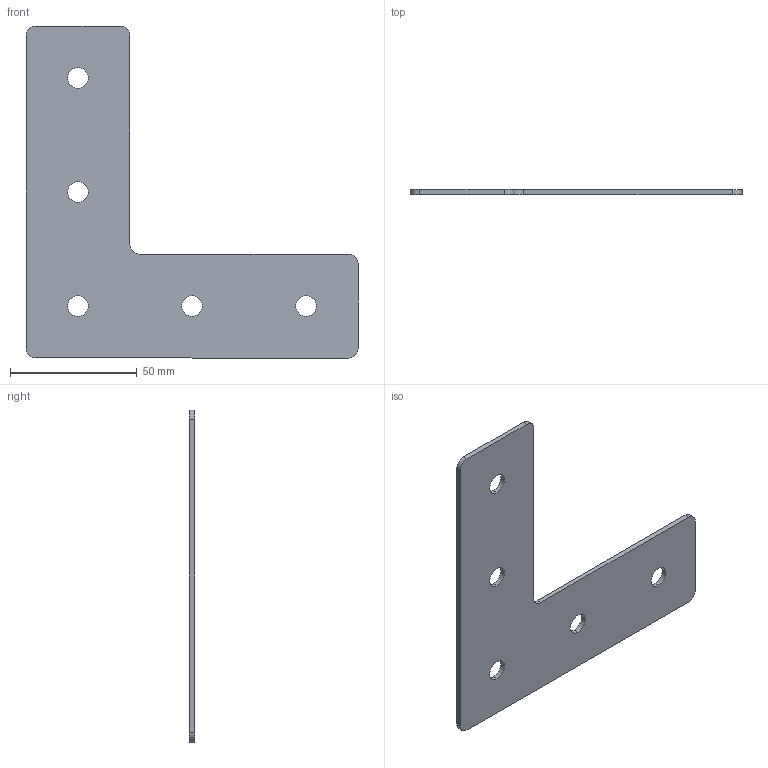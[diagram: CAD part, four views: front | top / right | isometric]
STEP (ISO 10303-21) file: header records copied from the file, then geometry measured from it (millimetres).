
FILE_DESCRIPTION (( 'STEP AP203' ), '1' );
FILE_NAME ('Ã-5-45.STEP', '2016-07-19T13:09:53', ( 'RosInstal-MKM' ), ( '' ), 'SwSTEP 2.0', 'SolidWorks 2014', '' );
FILE_SCHEMA (( 'CONFIG_CONTROL_DESIGN' ));
Length unit declared in the file: millimetre
Products named in the file (1): ﾃ-5-45
Bounding box: 131 x 2 x 131 mm (x, y, z)
Volume: 17569.5 mm3; surface area: 18855.7 mm2
Topology: 1 solids, 1 shells, 24 faces, 66 edges, 44 vertices
Faces by surface type: cylinder 16, plane 8
Entity records: 879 total; most frequent: DIRECTION 148, CARTESIAN_POINT 135, ORIENTED_EDGE 132, EDGE_CURVE 66, AXIS2_PLACEMENT_3D 57, VERTEX_POINT 44, LINE 34, VECTOR 34
